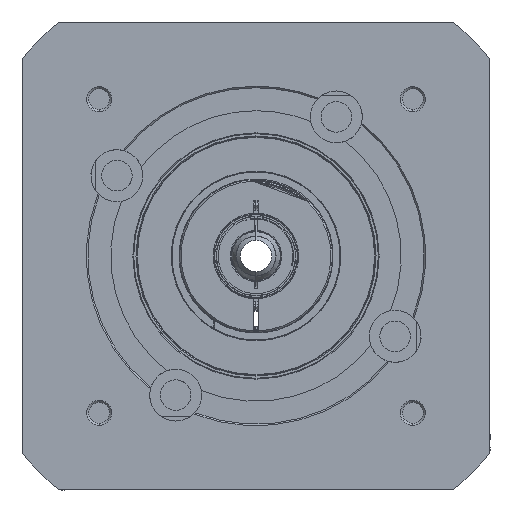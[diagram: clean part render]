
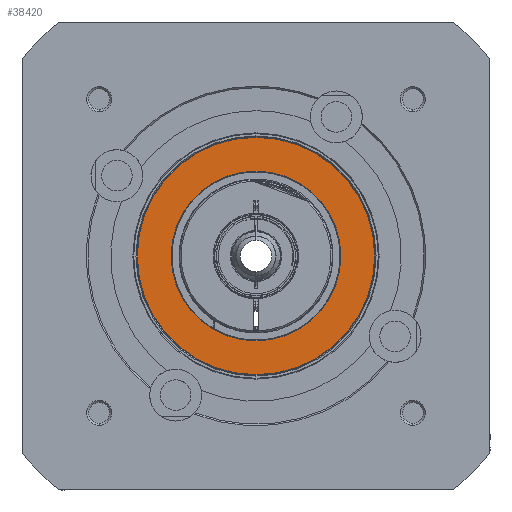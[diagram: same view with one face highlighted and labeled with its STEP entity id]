
A CAD part, left-side view. The second image highlights one B-rep face of the part: STEP entity #38420.
In plain terms, the highlighted planar face has unit normal (-1, 0, 0).
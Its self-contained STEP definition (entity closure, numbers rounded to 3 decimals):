
#225 = VERTEX_POINT ( 'NONE', #30268 ) ;
#916 = DIRECTION ( 'NONE',  ( 0., 0., -1. ) ) ;
#3645 = DIRECTION ( 'NONE',  ( -1., 0., 0. ) ) ;
#4360 = CIRCLE ( 'NONE', #50950, 38.799 ) ;
#6882 = DIRECTION ( 'NONE',  ( 0., 0., -1. ) ) ;
#9039 = DIRECTION ( 'NONE',  ( -1., 0., 0. ) ) ;
#10312 = AXIS2_PLACEMENT_3D ( 'NONE', #21243, #41896, #30269 ) ;
#11579 = EDGE_CURVE ( 'NONE', #12974, #37359, #26226, .T. ) ;
#12974 = VERTEX_POINT ( 'NONE', #44406 ) ;
#13964 = CARTESIAN_POINT ( 'NONE',  ( -150.5, 0., -27.75 ) ) ;
#14346 = DIRECTION ( 'NONE',  ( 0., 0., -1. ) ) ;
#18346 = CARTESIAN_POINT ( 'NONE',  ( -150.5, 27.5, 0. ) ) ;
#19425 = AXIS2_PLACEMENT_3D ( 'NONE', #36162, #24222, #916 ) ;
#19681 = AXIS2_PLACEMENT_3D ( 'NONE', #18346, #21303, #14346 ) ;
#20561 = CIRCLE ( 'NONE', #10312, 27.75 ) ;
#20657 = EDGE_CURVE ( 'NONE', #23049, #225, #4360, .T. ) ;
#21243 = CARTESIAN_POINT ( 'NONE',  ( -150.5, 0., 0. ) ) ;
#21303 = DIRECTION ( 'NONE',  ( 1., 0., 0. ) ) ;
#23049 = VERTEX_POINT ( 'NONE', #25896 ) ;
#24157 = CIRCLE ( 'NONE', #48734, 38.799 ) ;
#24222 = DIRECTION ( 'NONE',  ( 1., 0., 0. ) ) ;
#24269 = DIRECTION ( 'NONE',  ( 0., 0., -1. ) ) ;
#25896 = CARTESIAN_POINT ( 'NONE',  ( -150.5, 0., -38.799 ) ) ;
#26226 = CIRCLE ( 'NONE', #19425, 27.75 ) ;
#28336 = EDGE_CURVE ( 'NONE', #225, #23049, #24157, .T. ) ;
#30268 = CARTESIAN_POINT ( 'NONE',  ( -150.5, 0., 38.799 ) ) ;
#30269 = DIRECTION ( 'NONE',  ( 0., 0., -1. ) ) ;
#30979 = ORIENTED_EDGE ( 'NONE', *, *, #11579, .T. ) ;
#35088 = CARTESIAN_POINT ( 'NONE',  ( -150.5, 0., 0. ) ) ;
#36162 = CARTESIAN_POINT ( 'NONE',  ( -150.5, 0., 0. ) ) ;
#36732 = CARTESIAN_POINT ( 'NONE',  ( -150.5, 0., 0. ) ) ;
#37359 = VERTEX_POINT ( 'NONE', #13964 ) ;
#37489 = PLANE ( 'NONE',  #19681 ) ;
#38420 = ADVANCED_FACE ( 'NONE', ( #45980, #46756 ), #37489, .F. ) ;
#38725 = EDGE_CURVE ( 'NONE', #37359, #12974, #20561, .T. ) ;
#41017 = EDGE_LOOP ( 'NONE', ( #48374, #30979 ) ) ;
#41896 = DIRECTION ( 'NONE',  ( 1., 0., 0. ) ) ;
#42017 = ORIENTED_EDGE ( 'NONE', *, *, #28336, .T. ) ;
#42602 = ORIENTED_EDGE ( 'NONE', *, *, #20657, .T. ) ;
#44406 = CARTESIAN_POINT ( 'NONE',  ( -150.5, 0., 27.75 ) ) ;
#45854 = EDGE_LOOP ( 'NONE', ( #42602, #42017 ) ) ;
#45980 = FACE_OUTER_BOUND ( 'NONE', #45854, .T. ) ;
#46756 = FACE_BOUND ( 'NONE', #41017, .T. ) ;
#48374 = ORIENTED_EDGE ( 'NONE', *, *, #38725, .T. ) ;
#48734 = AXIS2_PLACEMENT_3D ( 'NONE', #35088, #3645, #6882 ) ;
#50950 = AXIS2_PLACEMENT_3D ( 'NONE', #36732, #9039, #24269 ) ;
